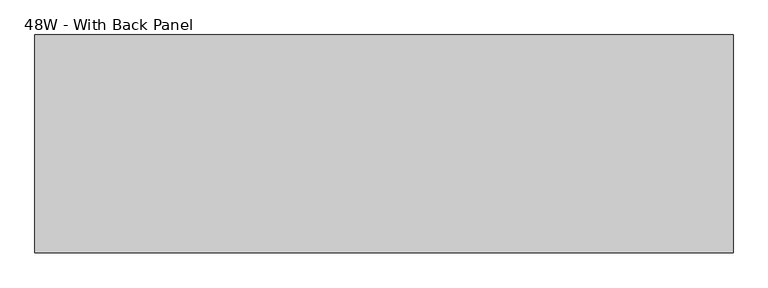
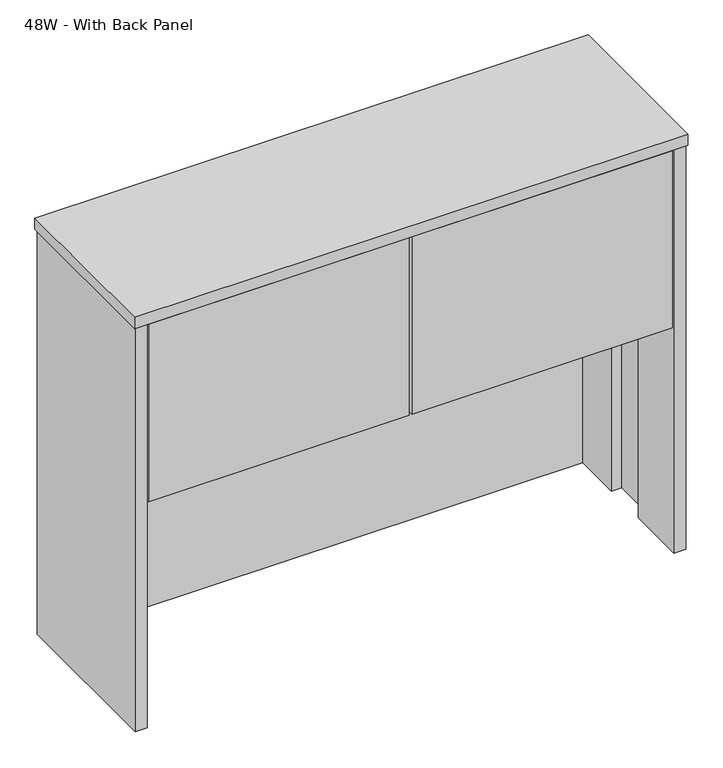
"""IFC4 building model written with IfcOpenShell, lengths in millimetres: furniture geometry, Steelcase - Kick Freestanding - Overhead Storage Cabinet With Hinge Door : 48W - With Back Panel."""

from ifc_helpers import new_model, si_unit, frame, origin, place, context, project, spatial, polyline, outline, extrude, source, transform, mapped, element, save


def furniture_48w_with_back_panel_a8adf861(model_context):
    return source(origin(), model_context, "Body", "SweptSolid", [
        extrude(outline(polyline([(1180.7618992, -28.5781763), (1206.2872195, -28.5781763), (1206.2872195, -396.8781725), (1180.7618992, -396.8781725), (1180.7618992, -263.5281725), (1203.1122191, -263.5281725), (1203.1122191, -161.9281786), (1180.7618992, -161.9281786), (1180.7618992, -28.5781763)])), frame((0.0, 0.0, 495.068073), z_axis=(0.0, 0.0, 1.0), x_axis=(1.0, 0.0, 0.0)), (0.0, 0.0, 1.0), 927.1),
        extrude(outline(polyline([(612.5638992, -377.8250114), (1177.7126896, -377.8250114), (1177.7126896, -396.8750114), (612.5638992, -396.8750114), (612.5638992, -377.8250114)])), frame((0.0, 0.0, 1012.5930246), z_axis=(0.0, 0.0, 1.0), x_axis=(1.0, 0.0, 0.0)), (0.0, 0.0, 1.0), 406.4000484),
        extrude(outline(polyline([(606.2138992, -377.8250114), (606.2138992, -396.8750114), (41.0639007, -396.8750114), (41.0639007, -377.8250114), (606.2138992, -377.8250114)])), frame((0.0, 0.0, 1012.5930246), z_axis=(0.0, 0.0, 1.0), x_axis=(1.0, 0.0, 0.0)), (0.0, 0.0, 1.0), 406.4000484),
        extrude(outline(polyline([(1180.7618992, -53.9789719), (38.0158992, -53.9789719), (38.0158992, -28.5789734), (1180.7618992, -28.5789734), (1180.7618992, -53.9789719)])), frame((0.0, 0.0, 495.068073), z_axis=(0.0, 0.0, 1.0), x_axis=(1.0, 0.0, 0.0)), (0.0, 0.0, 1.0), 927.1),
        extrude(outline(polyline([(38.0158992, -28.5781763), (38.0158992, -161.9281786), (15.6638988, -161.9281786), (15.6638988, -263.5281725), (38.0158992, -263.5281725), (38.0158992, -396.8781725), (12.4888985, -396.8781725), (12.4888985, -28.5781763), (38.0158992, -28.5781763)])), frame((0.0, 0.0, 495.068073), z_axis=(0.0, 0.0, 1.0), x_axis=(1.0, 0.0, 0.0)), (0.0, 0.0, 1.0), 927.1),
        extrude(outline(polyline([(1209.4638992, -25.4), (1209.4638992, -400.05), (9.3138992, -400.05), (9.3138992, -25.4), (1209.4638992, -25.4)])), frame((0.0, 0.0, 1422.168073), z_axis=(0.0, 0.0, 1.0), x_axis=(1.0, 0.0, 0.0)), (0.0, 0.0, 1.0), 25.4),
    ])


if __name__ == "__main__":
    model = new_model("IFC4")
    model_context = context("Model", 3, world=origin())
    ifc_project = project(units=[si_unit("LENGTHUNIT", "METRE", prefix="MILLI")], contexts=[model_context])
    site = spatial("IfcSite", under=ifc_project)
    building = spatial("IfcBuilding", under=site)
    placement = place(None, origin())
    furniture_48w_with_back_panel_shape = furniture_48w_with_back_panel_a8adf861(model_context)
    element("IfcFurniture", 1, ObjectType="Steelcase - Kick Freestanding - Overhead Storage Cabinet With Hinge Door : 48W - With Back Panel", at=placement, inside=building, context=model_context, shape_type="MappedRepresentation", body=[
        mapped(furniture_48w_with_back_panel_shape, transform((0.0, 0.0, 0.0), x_axis=(1.0, 0.0, 0.0), y_axis=(0.0, 1.0, 0.0), z_axis=(0.0, 0.0, 1.0))),
    ])
    save(model, "model.ifc")
